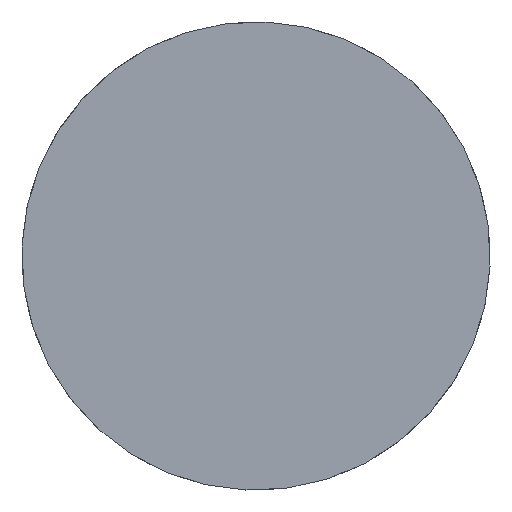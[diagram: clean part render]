
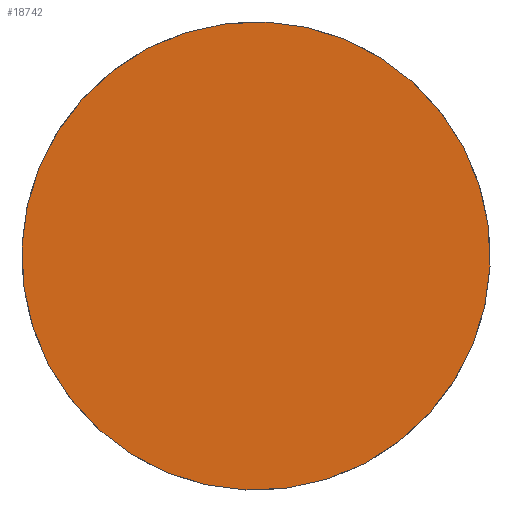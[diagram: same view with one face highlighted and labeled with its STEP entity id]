
A CAD part, left-side view. The second image highlights one B-rep face of the part: STEP entity #18742.
In plain terms, the highlighted planar face has unit normal (-1, 0, 0).
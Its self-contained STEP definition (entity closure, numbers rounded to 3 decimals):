
#14797 = CARTESIAN_POINT ( 'NONE',  ( -174.976, 52.896, 13.291 ) ) ;
#18742 = ADVANCED_FACE ( 'NONE', ( #131697 ), #112171, .F. ) ;
#19870 = CARTESIAN_POINT ( 'NONE',  ( -174.976, 20.641, -0.036 ) ) ;
#25187 = AXIS2_PLACEMENT_3D ( 'NONE', #173993, #80122, #127634 ) ;
#31323 = CIRCLE ( 'NONE', #137006, 34.9 ) ;
#31334 = DIRECTION ( 'NONE',  ( 1., 0., 0. ) ) ;
#37661 = ORIENTED_EDGE ( 'NONE', *, *, #68246, .F. ) ;
#63407 = VERTEX_POINT ( 'NONE', #14797 ) ;
#63654 = ORIENTED_EDGE ( 'NONE', *, *, #142946, .F. ) ;
#68246 = EDGE_CURVE ( 'NONE', #63407, #129850, #31323, .T. ) ;
#80122 = DIRECTION ( 'NONE',  ( 1., 0., 0. ) ) ;
#83012 = DIRECTION ( 'NONE',  ( 0., -0.924, -0.382 ) ) ;
#104500 = EDGE_LOOP ( 'NONE', ( #63654, #37661 ) ) ;
#108865 = AXIS2_PLACEMENT_3D ( 'NONE', #19870, #31334, #83012 ) ;
#112171 = PLANE ( 'NONE',  #25187 ) ;
#124241 = DIRECTION ( 'NONE',  ( 1., 0., 0. ) ) ;
#127634 = DIRECTION ( 'NONE',  ( 0., -0.924, -0.382 ) ) ;
#129850 = VERTEX_POINT ( 'NONE', #151082 ) ;
#131697 = FACE_OUTER_BOUND ( 'NONE', #104500, .T. ) ;
#137006 = AXIS2_PLACEMENT_3D ( 'NONE', #174660, #124241, #187154 ) ;
#141832 = CIRCLE ( 'NONE', #108865, 34.9 ) ;
#142946 = EDGE_CURVE ( 'NONE', #129850, #63407, #141832, .T. ) ;
#151082 = CARTESIAN_POINT ( 'NONE',  ( -174.976, -11.615, -13.363 ) ) ;
#173993 = CARTESIAN_POINT ( 'NONE',  ( -174.976, 10.243, -4.332 ) ) ;
#174660 = CARTESIAN_POINT ( 'NONE',  ( -174.976, 20.641, -0.036 ) ) ;
#187154 = DIRECTION ( 'NONE',  ( 0., -0.924, -0.382 ) ) ;
